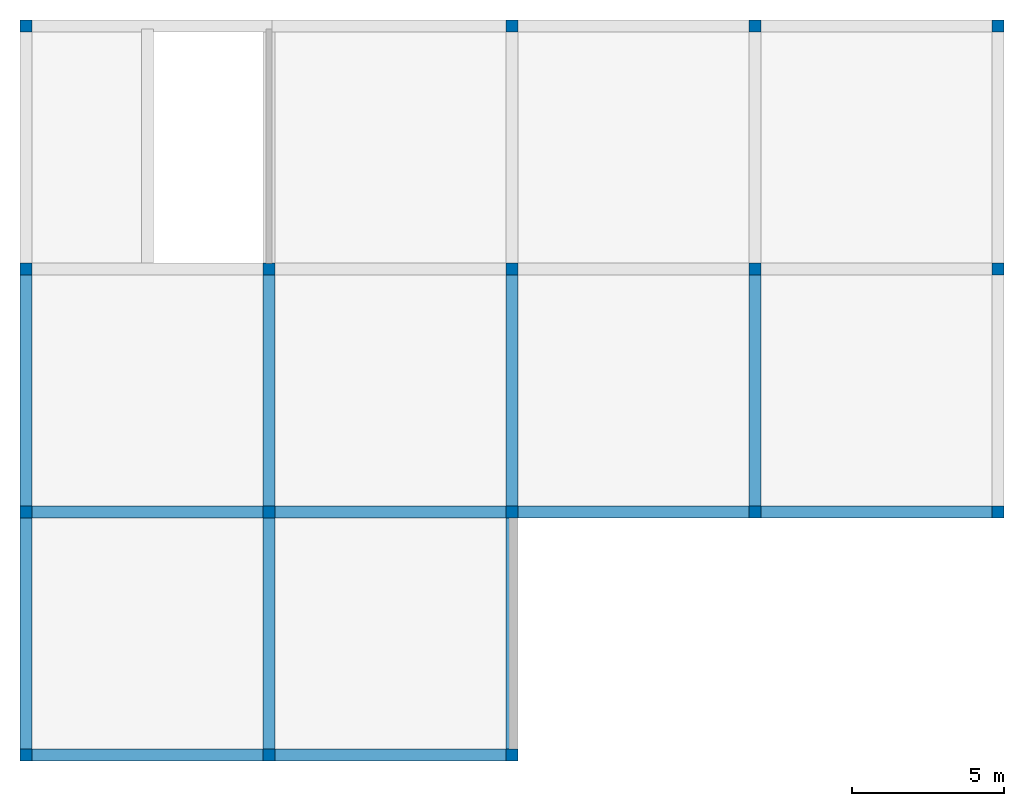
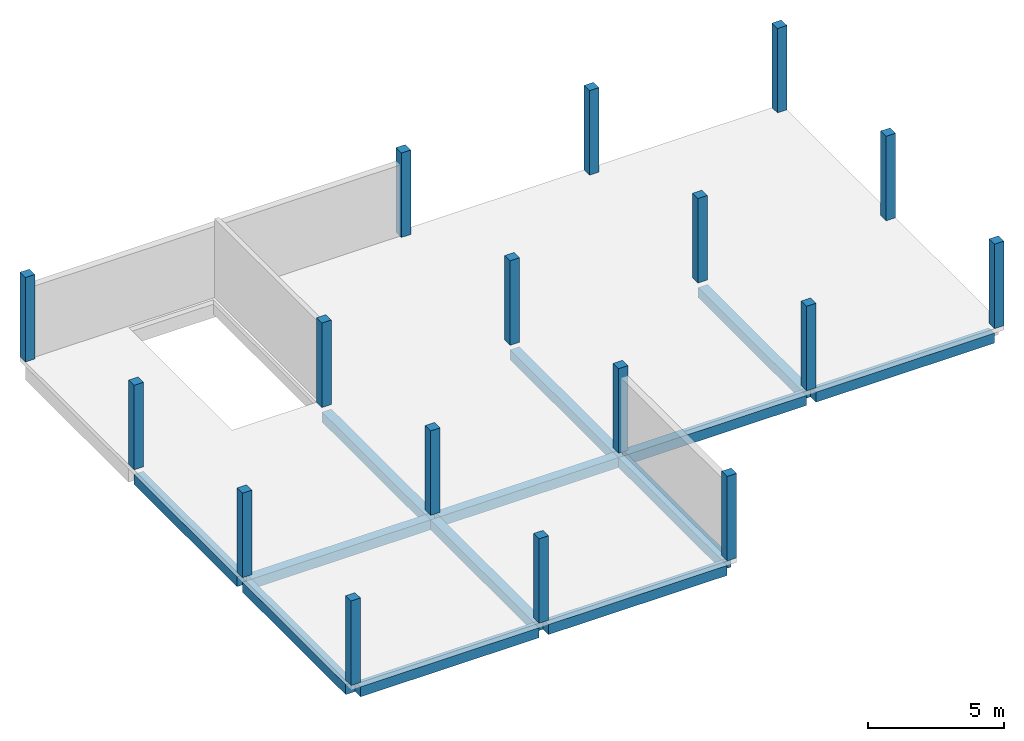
# One storey, part 1 of 3: 17 columns, 13 beams.
"""IFC4X3_ADD2 building model written with IfcOpenShell, lengths in millimetres."""

from ifc_helpers import new_model, entity, si_unit, converted_unit, derived_unit, direction, frame, frame_2d, origin, origin_2d_with_axis, place, context, subcontext, project, spatial, rectangle, extrude, faceted_brep, source, transform, mapped, material, material_profile, profile_set, type_object, type_shapes, element, save


model = new_model("IFC4X3_ADD2")

# Units and contexts
model_context = context("Model", 3, precision=0.01, world=origin(), true_north=direction((6.123233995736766e-17, 1.0)))
plan_context = context("Plan", 3, precision=0.01, world=origin(), true_north=direction((6.123233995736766e-17, 1.0)))
body_context = subcontext(model_context, "Body", "Model", "MODEL_VIEW")
ifc_project = project(units=[si_unit("LENGTHUNIT", "METRE", prefix="MILLI"), converted_unit("PLANEANGLEUNIT", "DEGREE", entity("IfcPlaneAngleMeasure", 0.017453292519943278), si_unit("PLANEANGLEUNIT", "RADIAN"), dimensions=[0, 0, 0, 0, 0, 0, 0]), si_unit("AREAUNIT", "SQUARE_METRE"), si_unit("VOLUMEUNIT", "CUBIC_METRE"), derived_unit("THERMALTRANSMITTANCEUNIT", [(si_unit("MASSUNIT", "GRAM", prefix="KILO"), 1), (si_unit("THERMODYNAMICTEMPERATUREUNIT", "KELVIN"), -1), (si_unit("TIMEUNIT", "SECOND"), -3)]), derived_unit("USERDEFINED", [(si_unit("MASSUNIT", "GRAM", prefix="KILO"), 1), (si_unit("THERMODYNAMICTEMPERATUREUNIT", "KELVIN"), -1), (si_unit("TIMEUNIT", "SECOND"), -2)]), derived_unit("THERMALRESISTANCEUNIT", [(si_unit("MASSUNIT", "GRAM", prefix="KILO"), -1), (si_unit("TIMEUNIT", "SECOND"), 3), (si_unit("THERMODYNAMICTEMPERATUREUNIT", "KELVIN"), 1)]), si_unit("PRESSUREUNIT", "PASCAL"), derived_unit("MASSDENSITYUNIT", [(si_unit("MASSUNIT", "GRAM", prefix="KILO"), 1), (si_unit("LENGTHUNIT", "METRE"), -3)]), derived_unit("MODULUSOFELASTICITYUNIT", [(si_unit("MASSUNIT", "GRAM", prefix="KILO"), 1), (si_unit("TIMEUNIT", "SECOND"), -2), (si_unit("LENGTHUNIT", "METRE"), -1)]), derived_unit("THERMALEXPANSIONCOEFFICIENTUNIT", [(si_unit("THERMODYNAMICTEMPERATUREUNIT", "KELVIN"), -1)]), derived_unit("VAPORPERMEABILITYUNIT", [(si_unit("LENGTHUNIT", "METRE"), -1), (si_unit("TIMEUNIT", "SECOND"), 1)]), derived_unit("USERDEFINED", [(si_unit("MASSUNIT", "GRAM", prefix="KILO"), 1), (si_unit("TIMEUNIT", "SECOND"), -3), (si_unit("LENGTHUNIT", "METRE"), 3), (si_unit("ELECTRICCURRENTUNIT", "AMPERE"), -2)]), derived_unit("SPECIFICHEATCAPACITYUNIT", [(si_unit("THERMODYNAMICTEMPERATUREUNIT", "KELVIN"), -1), (si_unit("TIMEUNIT", "SECOND"), -2), (si_unit("LENGTHUNIT", "METRE"), 2)]), derived_unit("THERMALCONDUCTANCEUNIT", [(si_unit("MASSUNIT", "GRAM", prefix="KILO"), 1), (si_unit("THERMODYNAMICTEMPERATUREUNIT", "KELVIN"), -1), (si_unit("TIMEUNIT", "SECOND"), -3), (si_unit("LENGTHUNIT", "METRE"), 1)])], contexts=[model_context, plan_context])

# Site, building, storey
site_placement = place(None, origin())
site = spatial("IfcSite", under=ifc_project, at=site_placement, Name="Default", CompositionType="ELEMENT")
building_placement = place(site_placement, origin())
building = spatial("IfcBuilding", under=site, at=building_placement, Name="Building Name", CompositionType="ELEMENT")
storey_placement = place(building_placement, frame((0.0, 0.0, 4000.0)))
storey = spatial("IfcBuildingStorey", under=building, at=storey_placement, Name="L2", CompositionType="ELEMENT", Elevation=4000.0000000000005)

# Columns
ifc_material = material(Name="Concrete - Cast-in-Place Concrete", Category="Concrete")
ifc_material_profile_1 = material_profile(ifc_material, rectangle(XDim=400.0, YDim=400.0, at=origin_2d_with_axis()), Name="400 x 400mm")
ifc_profile_set_1 = profile_set([ifc_material_profile_1], Name="400 x 400mm")
column_type_1 = type_object("IfcColumnType", Name="Concrete Square:400 x 400mm", PredefinedType="COLUMN", material=ifc_profile_set_1)
shared_shape_1 = source(origin(), body_context, "Body", "SweptSolid", [
    extrude(rectangle(XDim=400.0, YDim=400.0, at=origin_2d_with_axis()), frame((11032.048763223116, 12096.696870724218, 4000.0), z_axis=(0.0, 0.0, 1.0), x_axis=(-1.0, 0.0, 0.0)), (0.0, 0.0, 1.0), 3800.000000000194),
])
type_shapes(column_type_1, [shared_shape_1])
column_1_placement = place(storey_placement, frame((0.0, 0.0, -4000.0)))
element("IfcColumn", 1, at=column_1_placement, inside=storey, type_object=column_type_1, Name="Concrete Square:400 x 400mm", ObjectType="Concrete Square:400 x 400mm", PredefinedType="COLUMN", context=body_context, shape_type="MappedRepresentation", body=[
    mapped(shared_shape_1, transform((0.0, 0.0, 0.0), scale=1.0)),
])
column_type_2 = type_object("IfcColumnType", Name="Concrete Square:400 x 400mm", PredefinedType="COLUMN", material=ifc_profile_set_1)
shared_shape_2 = source(origin(), body_context, "Body", "SweptSolid", [
    extrude(rectangle(XDim=400.0, YDim=400.0, at=origin_2d_with_axis()), frame((19032.048763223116, 12096.696870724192, 4000.0), z_axis=(0.0, 0.0, 1.0), x_axis=(-1.0, 0.0, 0.0)), (0.0, 0.0, 1.0), 3800.000000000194),
])
type_shapes(column_type_2, [shared_shape_2])
column_2_placement = place(storey_placement, frame((0.0, 0.0, -4000.0)))
element("IfcColumn", 2, at=column_2_placement, inside=storey, type_object=column_type_2, Name="Concrete Square:400 x 400mm", ObjectType="Concrete Square:400 x 400mm", PredefinedType="COLUMN", context=body_context, shape_type="MappedRepresentation", body=[
    mapped(shared_shape_2, transform((0.0, 0.0, 0.0), scale=1.0)),
])
column_type_3 = type_object("IfcColumnType", Name="Concrete Square:400 x 400mm", PredefinedType="COLUMN", material=ifc_profile_set_1)
shared_shape_3 = source(origin(), body_context, "Body", "SweptSolid", [
    extrude(rectangle(XDim=400.0, YDim=400.0, at=origin_2d_with_axis()), frame((-12967.951236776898, 4096.696870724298, 4000.0), z_axis=(0.0, 0.0, 1.0), x_axis=(-1.0, 0.0, 0.0)), (0.0, 0.0, 1.0), 3800.000000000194),
])
type_shapes(column_type_3, [shared_shape_3])
column_3_placement = place(storey_placement, frame((0.0, 0.0, -4000.0)))
element("IfcColumn", 3, at=column_3_placement, inside=storey, type_object=column_type_3, Name="Concrete Square:400 x 400mm", ObjectType="Concrete Square:400 x 400mm", PredefinedType="COLUMN", context=body_context, shape_type="MappedRepresentation", body=[
    mapped(shared_shape_3, transform((0.0, 0.0, 0.0), scale=1.0)),
])
column_type_4 = type_object("IfcColumnType", Name="Concrete Square:400 x 400mm", PredefinedType="COLUMN", material=ifc_profile_set_1)
shared_shape_4 = source(origin(), body_context, "Body", "SweptSolid", [
    extrude(rectangle(XDim=400.0, YDim=400.0, at=origin_2d_with_axis()), frame((3032.0487632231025, 4096.696870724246, 4000.0), z_axis=(0.0, 0.0, 1.0), x_axis=(-1.0, 0.0, 0.0)), (0.0, 0.0, 1.0), 3800.000000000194),
])
type_shapes(column_type_4, [shared_shape_4])
column_4_placement = place(storey_placement, frame((0.0, 0.0, -4000.0)))
element("IfcColumn", 4, at=column_4_placement, inside=storey, type_object=column_type_4, Name="Concrete Square:400 x 400mm", ObjectType="Concrete Square:400 x 400mm", PredefinedType="COLUMN", context=body_context, shape_type="MappedRepresentation", body=[
    mapped(shared_shape_4, transform((0.0, 0.0, 0.0), scale=1.0)),
])
column_type_5 = type_object("IfcColumnType", Name="Concrete Square:400 x 400mm", PredefinedType="COLUMN", material=ifc_profile_set_1)
shared_shape_5 = source(origin(), body_context, "Body", "SweptSolid", [
    extrude(rectangle(XDim=400.0, YDim=400.0, at=origin_2d_with_axis()), frame((11032.048763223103, 4096.6968707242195, 4000.0), z_axis=(0.0, 0.0, 1.0), x_axis=(-1.0, 0.0, 0.0)), (0.0, 0.0, 1.0), 3800.000000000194),
])
type_shapes(column_type_5, [shared_shape_5])
column_5_placement = place(storey_placement, frame((0.0, 0.0, -4000.0)))
element("IfcColumn", 5, at=column_5_placement, inside=storey, type_object=column_type_5, Name="Concrete Square:400 x 400mm", ObjectType="Concrete Square:400 x 400mm", PredefinedType="COLUMN", context=body_context, shape_type="MappedRepresentation", body=[
    mapped(shared_shape_5, transform((0.0, 0.0, 0.0), scale=1.0)),
])
column_type_6 = type_object("IfcColumnType", Name="Concrete Square:400 x 400mm", PredefinedType="COLUMN", material=ifc_profile_set_1)
shared_shape_6 = source(origin(), body_context, "Body", "SweptSolid", [
    extrude(rectangle(XDim=400.0, YDim=400.0, at=origin_2d_with_axis()), frame((19032.048763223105, 4096.696870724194, 4000.0), z_axis=(0.0, 0.0, 1.0), x_axis=(-1.0, 0.0, 0.0)), (0.0, 0.0, 1.0), 3800.000000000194),
])
type_shapes(column_type_6, [shared_shape_6])
column_6_placement = place(storey_placement, frame((0.0, 0.0, -4000.0)))
element("IfcColumn", 6, at=column_6_placement, inside=storey, type_object=column_type_6, Name="Concrete Square:400 x 400mm", ObjectType="Concrete Square:400 x 400mm", PredefinedType="COLUMN", context=body_context, shape_type="MappedRepresentation", body=[
    mapped(shared_shape_6, transform((0.0, 0.0, 0.0), scale=1.0)),
])
column_type_7 = type_object("IfcColumnType", Name="Concrete Square:400 x 400mm", PredefinedType="COLUMN", material=ifc_profile_set_1)
shared_shape_7 = source(origin(), body_context, "Body", "SweptSolid", [
    extrude(rectangle(XDim=400.0, YDim=400.0, at=origin_2d_with_axis()), frame((-12967.951236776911, -3903.3031292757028, 4000.0), z_axis=(0.0, 0.0, 1.0), x_axis=(-1.0, 0.0, 0.0)), (0.0, 0.0, 1.0), 3800.000000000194),
])
type_shapes(column_type_7, [shared_shape_7])
column_7_placement = place(storey_placement, frame((0.0, 0.0, -4000.0)))
element("IfcColumn", 7, at=column_7_placement, inside=storey, type_object=column_type_7, Name="Concrete Square:400 x 400mm", ObjectType="Concrete Square:400 x 400mm", PredefinedType="COLUMN", context=body_context, shape_type="MappedRepresentation", body=[
    mapped(shared_shape_7, transform((0.0, 0.0, 0.0), scale=1.0)),
])
column_type_8 = type_object("IfcColumnType", Name="Concrete Square:400 x 400mm", PredefinedType="COLUMN", material=ifc_profile_set_1)
shared_shape_8 = source(origin(), body_context, "Body", "SweptSolid", [
    extrude(rectangle(XDim=400.0, YDim=400.0, at=origin_2d_with_axis()), frame((-4967.951236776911, -3903.3031292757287, 4000.0), z_axis=(0.0, 0.0, 1.0), x_axis=(-1.0, 0.0, 0.0)), (0.0, 0.0, 1.0), 3800.000000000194),
])
type_shapes(column_type_8, [shared_shape_8])
column_8_placement = place(storey_placement, frame((0.0, 0.0, -4000.0)))
element("IfcColumn", 8, at=column_8_placement, inside=storey, type_object=column_type_8, Name="Concrete Square:400 x 400mm", ObjectType="Concrete Square:400 x 400mm", PredefinedType="COLUMN", context=body_context, shape_type="MappedRepresentation", body=[
    mapped(shared_shape_8, transform((0.0, 0.0, 0.0), scale=1.0)),
])
column_type_9 = type_object("IfcColumnType", Name="Concrete Square:400 x 400mm", PredefinedType="COLUMN", material=ifc_profile_set_1)
shared_shape_9 = source(origin(), body_context, "Body", "SweptSolid", [
    extrude(rectangle(XDim=400.0, YDim=400.0, at=origin_2d_with_axis()), frame((11032.04876322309, -3903.303129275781, 4000.0), z_axis=(0.0, 0.0, 1.0), x_axis=(-1.0, 0.0, 0.0)), (0.0, 0.0, 1.0), 3800.000000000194),
])
type_shapes(column_type_9, [shared_shape_9])
column_9_placement = place(storey_placement, frame((0.0, 0.0, -4000.0)))
element("IfcColumn", 9, at=column_9_placement, inside=storey, type_object=column_type_9, Name="Concrete Square:400 x 400mm", ObjectType="Concrete Square:400 x 400mm", PredefinedType="COLUMN", context=body_context, shape_type="MappedRepresentation", body=[
    mapped(shared_shape_9, transform((0.0, 0.0, 0.0), scale=1.0)),
])
column_type_10 = type_object("IfcColumnType", Name="Concrete Square:400 x 400mm", PredefinedType="COLUMN", material=ifc_profile_set_1)
shared_shape_10 = source(origin(), body_context, "Body", "SweptSolid", [
    extrude(rectangle(XDim=400.0, YDim=400.0, at=origin_2d_with_axis()), frame((19032.04876322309, -3903.303129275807, 4000.0), z_axis=(0.0, 0.0, 1.0), x_axis=(-1.0, 0.0, 0.0)), (0.0, 0.0, 1.0), 3800.000000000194),
])
type_shapes(column_type_10, [shared_shape_10])
column_10_placement = place(storey_placement, frame((0.0, 0.0, -4000.0)))
element("IfcColumn", 10, at=column_10_placement, inside=storey, type_object=column_type_10, Name="Concrete Square:400 x 400mm", ObjectType="Concrete Square:400 x 400mm", PredefinedType="COLUMN", context=body_context, shape_type="MappedRepresentation", body=[
    mapped(shared_shape_10, transform((0.0, 0.0, 0.0), scale=1.0)),
])
column_type_11 = type_object("IfcColumnType", Name="Concrete Square:400 x 400mm", PredefinedType="COLUMN", material=ifc_profile_set_1)
shared_shape_11 = source(origin(), body_context, "Body", "SweptSolid", [
    extrude(rectangle(XDim=400.0, YDim=400.0, at=origin_2d_with_axis()), frame((-12967.951236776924, -11903.303129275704, 4000.0), z_axis=(0.0, 0.0, 1.0), x_axis=(-1.0, 0.0, 0.0)), (0.0, 0.0, 1.0), 3800.000000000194),
])
type_shapes(column_type_11, [shared_shape_11])
column_11_placement = place(storey_placement, frame((0.0, 0.0, -4000.0)))
element("IfcColumn", 11, at=column_11_placement, inside=storey, type_object=column_type_11, Name="Concrete Square:400 x 400mm", ObjectType="Concrete Square:400 x 400mm", PredefinedType="COLUMN", context=body_context, shape_type="MappedRepresentation", body=[
    mapped(shared_shape_11, transform((0.0, 0.0, 0.0), scale=1.0)),
])
column_type_12 = type_object("IfcColumnType", Name="Concrete Square:400 x 400mm", PredefinedType="COLUMN", material=ifc_profile_set_1)
shared_shape_12 = source(origin(), body_context, "Body", "SweptSolid", [
    extrude(rectangle(XDim=400.0, YDim=400.0, at=origin_2d_with_axis()), frame((-4967.951236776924, -11903.30312927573, 4000.0), z_axis=(0.0, 0.0, 1.0), x_axis=(-1.0, 0.0, 0.0)), (0.0, 0.0, 1.0), 3800.000000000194),
])
type_shapes(column_type_12, [shared_shape_12])
column_12_placement = place(storey_placement, frame((0.0, 0.0, -4000.0)))
element("IfcColumn", 12, at=column_12_placement, inside=storey, type_object=column_type_12, Name="Concrete Square:400 x 400mm", ObjectType="Concrete Square:400 x 400mm", PredefinedType="COLUMN", context=body_context, shape_type="MappedRepresentation", body=[
    mapped(shared_shape_12, transform((0.0, 0.0, 0.0), scale=1.0)),
])
column_type_13 = type_object("IfcColumnType", Name="Concrete Square:400 x 400mm", PredefinedType="COLUMN", material=ifc_profile_set_1)
shared_shape_13 = source(origin(), body_context, "Body", "SweptSolid", [
    extrude(rectangle(XDim=400.0, YDim=400.0, at=frame_2d((-39.99999999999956, -19.999999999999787), x_axis=(1.0, 0.0))), frame((2992.048763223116, 12076.696870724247, 4000.0), z_axis=(0.0, 0.0, 1.0), x_axis=(-1.0, 0.0, 0.0)), (0.0, 0.0, 1.0), 3800.000000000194),
])
type_shapes(column_type_13, [shared_shape_13])
column_13_placement = place(storey_placement, frame((0.0, 0.0, -4000.0)))
element("IfcColumn", 13, at=column_13_placement, inside=storey, type_object=column_type_13, Name="Concrete Square:400 x 400mm", ObjectType="Concrete Square:400 x 400mm", PredefinedType="COLUMN", context=body_context, shape_type="MappedRepresentation", body=[
    mapped(shared_shape_13, transform((0.0, 0.0, 0.0), scale=1.0)),
])
column_type_14 = type_object("IfcColumnType", Name="Concrete Square:400 x 400mm", PredefinedType="COLUMN", material=ifc_profile_set_1)
shared_shape_14 = source(origin(), body_context, "Body", "SweptSolid", [
    extrude(rectangle(XDim=400.0, YDim=400.0, at=frame_2d((39.99999999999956, -19.999999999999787), x_axis=(1.0, 0.0))), frame((-12927.951236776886, 12076.696870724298, 4000.0), z_axis=(0.0, 0.0, 1.0), x_axis=(-1.0, 0.0, 0.0)), (0.0, 0.0, 1.0), 3800.000000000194),
])
type_shapes(column_type_14, [shared_shape_14])
column_14_placement = place(storey_placement, frame((0.0, 0.0, -4000.0)))
element("IfcColumn", 14, at=column_14_placement, inside=storey, type_object=column_type_14, Name="Concrete Square:400 x 400mm", ObjectType="Concrete Square:400 x 400mm", PredefinedType="COLUMN", context=body_context, shape_type="MappedRepresentation", body=[
    mapped(shared_shape_14, transform((0.0, 0.0, 0.0), scale=1.0)),
])
column_type_15 = type_object("IfcColumnType", Name="Concrete Square:400 x 400mm", PredefinedType="COLUMN", material=ifc_profile_set_1)
shared_shape_15 = source(origin(), body_context, "Body", "SweptSolid", [
    extrude(rectangle(XDim=400.0, YDim=400.0, at=frame_2d((-19.999999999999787, 39.9999999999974), x_axis=(1.0, 0.0))), frame((3012.0487632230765, -11863.303129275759, 4000.0), z_axis=(0.0, 0.0, 1.0), x_axis=(-1.0, 0.0, 0.0)), (0.0, 0.0, 1.0), 3800.000000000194),
])
type_shapes(column_type_15, [shared_shape_15])
column_15_placement = place(storey_placement, frame((0.0, 0.0, -4000.0)))
element("IfcColumn", 15, at=column_15_placement, inside=storey, type_object=column_type_15, Name="Concrete Square:400 x 400mm", ObjectType="Concrete Square:400 x 400mm", PredefinedType="COLUMN", context=body_context, shape_type="MappedRepresentation", body=[
    mapped(shared_shape_15, transform((0.0, 0.0, 0.0), scale=1.0)),
])
column_type_16 = type_object("IfcColumnType", Name="Concrete Square:400 x 400mm", PredefinedType="COLUMN", material=ifc_profile_set_1)
shared_shape_16 = source(origin(), body_context, "Body", "SweptSolid", [
    extrude(rectangle(XDim=400.0, YDim=400.0, at=frame_2d((-20.000000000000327, -40.00000000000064), x_axis=(1.0, 0.0))), frame((3012.0487632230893, -3943.3031292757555, 4000.0), z_axis=(0.0, 0.0, 1.0), x_axis=(-1.0, 0.0, 0.0)), (0.0, 0.0, 1.0), 3800.000000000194),
])
type_shapes(column_type_16, [shared_shape_16])
column_16_placement = place(storey_placement, frame((0.0, 0.0, -4000.0)))
element("IfcColumn", 16, at=column_16_placement, inside=storey, type_object=column_type_16, Name="Concrete Square:400 x 400mm", ObjectType="Concrete Square:400 x 400mm", PredefinedType="COLUMN", context=body_context, shape_type="MappedRepresentation", body=[
    mapped(shared_shape_16, transform((0.0, 0.0, 0.0), scale=1.0)),
])
column_type_17 = type_object("IfcColumnType", Name="Concrete Square:400 x 400mm", PredefinedType="COLUMN", material=ifc_profile_set_1)
shared_shape_17 = source(origin(), body_context, "Body", "Brep", [
    faceted_brep([(-4767.951236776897, 4296.696870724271, 4000.0), (-4767.951236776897, 3896.696870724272, 4000.0), (-5167.951236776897, 3896.696870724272, 4000.0), (-5167.951236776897, 4296.696870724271, 4000.0), (-5067.951236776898, 4296.696870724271, 4000.0), (-5067.951236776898, 4286.6968707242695, 4000.0), (-4867.9512367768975, 4286.6968707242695, 4000.0), (-4867.951236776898, 4296.696870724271, 4000.0), (-4767.951236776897, 4296.696870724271, 7200.0), (-4767.951236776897, 4296.696870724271, 7350.0), (-4767.951236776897, 4296.696870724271, 7800.0), (-4767.951236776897, 3896.696870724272, 7800.0), (-4767.951236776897, 3896.696870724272, 7350.0), (-4767.951236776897, 3896.696870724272, 7200.0), (-5167.951236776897, 3896.696870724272, 7800.0), (-5167.951236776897, 3896.696870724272, 7350.0), (-5167.951236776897, 3896.696870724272, 7200.0), (-5167.951236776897, 4296.696870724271, 7800.0), (-5167.951236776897, 4296.696870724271, 7350.0), (-5167.951236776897, 4296.696870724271, 7200.0), (-4867.9512367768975, 4296.696870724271, 7350.0), (-4867.9512367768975, 4296.696870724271, 7550.0), (-5067.951236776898, 4296.696870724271, 7550.0), (-5067.951236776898, 4296.696870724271, 7350.0), (-5067.951236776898, 4286.6968707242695, 7550.0), (-4867.9512367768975, 4286.6968707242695, 7550.0)], [[[0, 1, 2, 3, 4, 5, 6, 7]], [[1, 0, 8, 9, 10, 11, 12, 13]], [[2, 1, 13, 12, 11, 14, 15, 16]], [[3, 2, 16, 15, 14, 17, 18, 19]], [[4, 3, 19, 18, 17, 10, 9, 8, 0, 7, 20, 21, 22, 23]], [[24, 5, 4, 23, 22]], [[6, 25, 21, 20, 7]], [[5, 24, 25, 6]], [[25, 24, 22, 21]], [[11, 10, 17, 14]]]),
])
type_shapes(column_type_17, [shared_shape_17])
column_17_placement = place(storey_placement, frame((0.0, 0.0, -4000.0)))
element("IfcColumn", 17, at=column_17_placement, inside=storey, type_object=column_type_17, Name="Concrete Square:400 x 400mm", ObjectType="Concrete Square:400 x 400mm", PredefinedType="COLUMN", context=body_context, shape_type="MappedRepresentation", body=[
    mapped(shared_shape_17, transform((0.0, 0.0, 0.0), scale=1.0)),
])

# Beams
ifc_material_profile_2 = material_profile(ifc_material, rectangle(XDim=450.0, YDim=400.00000000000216, at=frame_2d((-1.0942358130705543e-12, 2.7000623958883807e-13), x_axis=(0.0, 1.0))), Name="400 x 450mm")
ifc_profile_set_2 = profile_set([ifc_material_profile_2], Name="400 x 450mm")
beam_type_1 = type_object("IfcBeamType", Name="Concrete - Rectangular Beam:400 x 450mm", PredefinedType="BEAM", material=ifc_profile_set_2)
shared_shape_18 = source(origin(), body_context, "Body", "SweptSolid", [
    extrude(rectangle(XDim=450.0, YDim=400.00000000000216, at=frame_2d((-1.0942358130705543e-12, 2.7000623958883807e-13), x_axis=(0.0, 1.0))), frame((-12967.951236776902, 3896.696870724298, 3575.0), z_axis=(0.0, -1.0, 0.0), x_axis=(-1.0, 0.0, 0.0)), (0.0, 0.0, 1.0), 7600.000000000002),
])
type_shapes(beam_type_1, [shared_shape_18])
beam_1_placement = place(storey_placement, frame((0.0, 0.0, -4000.0)))
element("IfcBeam", 18, at=beam_1_placement, inside=storey, type_object=beam_type_1, Name="Concrete - Rectangular Beam:400 x 450mm", ObjectType="Concrete - Rectangular Beam:400 x 450mm", PredefinedType="BEAM", context=body_context, shape_type="MappedRepresentation", body=[
    mapped(shared_shape_18, transform((0.0, 0.0, 0.0), scale=1.0)),
])
beam_type_2 = type_object("IfcBeamType", Name="Concrete - Rectangular Beam:400 x 450mm", PredefinedType="BEAM", material=ifc_profile_set_2)
shared_shape_19 = source(origin(), body_context, "Body", "SweptSolid", [
    extrude(rectangle(XDim=450.0, YDim=400.00000000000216, at=frame_2d((-1.0942358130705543e-12, 2.7000623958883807e-13), x_axis=(0.0, 1.0))), frame((-12967.951236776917, -4103.303129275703, 3575.0), z_axis=(0.0, -1.0, 0.0), x_axis=(-1.0, 0.0, 0.0)), (0.0, 0.0, 1.0), 7600.000000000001),
])
type_shapes(beam_type_2, [shared_shape_19])
beam_2_placement = place(storey_placement, frame((0.0, 0.0, -4000.0)))
element("IfcBeam", 19, at=beam_2_placement, inside=storey, type_object=beam_type_2, Name="Concrete - Rectangular Beam:400 x 450mm", ObjectType="Concrete - Rectangular Beam:400 x 450mm", PredefinedType="BEAM", context=body_context, shape_type="MappedRepresentation", body=[
    mapped(shared_shape_19, transform((0.0, 0.0, 0.0), scale=1.0)),
])
beam_type_3 = type_object("IfcBeamType", Name="Concrete - Rectangular Beam:400 x 450mm", PredefinedType="BEAM", material=ifc_profile_set_2)
shared_shape_20 = source(origin(), body_context, "Body", "SweptSolid", [
    extrude(rectangle(XDim=450.0, YDim=400.0000000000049, at=frame_2d((2.7000623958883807e-13, 2.7000623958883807e-13), x_axis=(0.0, 1.0))), frame((-4967.951236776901, 3896.6968707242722, 3575.0), z_axis=(0.0, -1.0, 0.0), x_axis=(-1.0, 0.0, 0.0)), (0.0, 0.0, 1.0), 7600.000000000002),
])
type_shapes(beam_type_3, [shared_shape_20])
beam_3_placement = place(storey_placement, frame((0.0, 0.0, -4000.0)))
element("IfcBeam", 20, at=beam_3_placement, inside=storey, type_object=beam_type_3, Name="Concrete - Rectangular Beam:400 x 450mm", ObjectType="Concrete - Rectangular Beam:400 x 450mm", PredefinedType="BEAM", context=body_context, shape_type="MappedRepresentation", body=[
    mapped(shared_shape_20, transform((0.0, 0.0, 0.0), scale=1.0)),
])
beam_type_4 = type_object("IfcBeamType", Name="Concrete - Rectangular Beam:400 x 450mm", PredefinedType="BEAM", material=ifc_profile_set_2)
shared_shape_21 = source(origin(), body_context, "Body", "SweptSolid", [
    extrude(rectangle(XDim=450.0, YDim=400.0000000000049, at=frame_2d((2.7000623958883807e-13, 2.7000623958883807e-13), x_axis=(0.0, 1.0))), frame((-4967.951236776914, -4103.303129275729, 3575.0), z_axis=(0.0, -1.0, 0.0), x_axis=(-1.0, 0.0, 0.0)), (0.0, 0.0, 1.0), 7600.000000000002),
])
type_shapes(beam_type_4, [shared_shape_21])
beam_4_placement = place(storey_placement, frame((0.0, 0.0, -4000.0)))
element("IfcBeam", 21, at=beam_4_placement, inside=storey, type_object=beam_type_4, Name="Concrete - Rectangular Beam:400 x 450mm", ObjectType="Concrete - Rectangular Beam:400 x 450mm", PredefinedType="BEAM", context=body_context, shape_type="MappedRepresentation", body=[
    mapped(shared_shape_21, transform((0.0, 0.0, 0.0), scale=1.0)),
])
beam_type_5 = type_object("IfcBeamType", Name="Concrete - Rectangular Beam:400 x 450mm", PredefinedType="BEAM", material=ifc_profile_set_2)
shared_shape_22 = source(origin(), body_context, "Body", "SweptSolid", [
    extrude(rectangle(XDim=450.0, YDim=400.00000000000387, at=frame_2d((-5.400124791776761e-13, 2.7000623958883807e-13), x_axis=(0.0, 1.0))), frame((3032.0487632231, 3896.6968707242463, 3575.0), z_axis=(0.0, -1.0, 0.0), x_axis=(-1.0, 0.0, 0.0)), (0.0, 0.0, 1.0), 7600.000000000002),
])
type_shapes(beam_type_5, [shared_shape_22])
beam_5_placement = place(storey_placement, frame((0.0, 0.0, -4000.0)))
element("IfcBeam", 22, at=beam_5_placement, inside=storey, type_object=beam_type_5, Name="Concrete - Rectangular Beam:400 x 450mm", ObjectType="Concrete - Rectangular Beam:400 x 450mm", PredefinedType="BEAM", context=body_context, shape_type="MappedRepresentation", body=[
    mapped(shared_shape_22, transform((0.0, 0.0, 0.0), scale=1.0)),
])
beam_type_6 = type_object("IfcBeamType", Name="Concrete - Rectangular Beam:400 x 450mm", PredefinedType="BEAM", material=ifc_profile_set_2)
shared_shape_23 = source(origin(), body_context, "Body", "SweptSolid", [
    extrude(rectangle(XDim=450.0, YDim=400.00000000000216, at=frame_2d((-1.0942358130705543e-12, 2.7000623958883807e-13), x_axis=(0.0, 1.0))), frame((11032.048763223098, 3896.6968707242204, 3575.0), z_axis=(0.0, -1.0, 0.0), x_axis=(-1.0, 0.0, 0.0)), (0.0, 0.0, 1.0), 7600.000000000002),
])
type_shapes(beam_type_6, [shared_shape_23])
beam_6_placement = place(storey_placement, frame((0.0, 0.0, -4000.0)))
element("IfcBeam", 23, at=beam_6_placement, inside=storey, type_object=beam_type_6, Name="Concrete - Rectangular Beam:400 x 450mm", ObjectType="Concrete - Rectangular Beam:400 x 450mm", PredefinedType="BEAM", context=body_context, shape_type="MappedRepresentation", body=[
    mapped(shared_shape_23, transform((0.0, 0.0, 0.0), scale=1.0)),
])
beam_type_7 = type_object("IfcBeamType", Name="Concrete - Rectangular Beam:400 x 450mm", PredefinedType="BEAM", material=ifc_profile_set_2)
shared_shape_24 = source(origin(), body_context, "Body", "SweptSolid", [
    extrude(rectangle(XDim=450.0, YDim=400.0000000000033, at=frame_2d((2.7000623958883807e-13, 0.0), x_axis=(1.0, 0.0))), frame((3232.048763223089, -3903.303129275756, 3575.0), z_axis=(1.0, 0.0, 0.0), x_axis=(0.0, 0.0, -1.0)), (0.0, 0.0, 1.0), 7600.000000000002),
])
type_shapes(beam_type_7, [shared_shape_24])
beam_7_placement = place(storey_placement, frame((0.0, 0.0, -4000.0)))
element("IfcBeam", 24, at=beam_7_placement, inside=storey, type_object=beam_type_7, Name="Concrete - Rectangular Beam:400 x 450mm", ObjectType="Concrete - Rectangular Beam:400 x 450mm", PredefinedType="BEAM", context=body_context, shape_type="MappedRepresentation", body=[
    mapped(shared_shape_24, transform((0.0, 0.0, 0.0), scale=1.0)),
])
beam_type_8 = type_object("IfcBeamType", Name="Concrete - Rectangular Beam:400 x 450mm", PredefinedType="BEAM", material=ifc_profile_set_2)
shared_shape_25 = source(origin(), body_context, "Body", "SweptSolid", [
    extrude(rectangle(XDim=450.0, YDim=400.0000000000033, at=frame_2d((2.7000623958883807e-13, 0.0), x_axis=(1.0, 0.0))), frame((11232.048763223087, -3903.303129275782, 3575.0), z_axis=(1.0, 0.0, 0.0), x_axis=(0.0, 0.0, -1.0)), (0.0, 0.0, 1.0), 7600.000000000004),
])
type_shapes(beam_type_8, [shared_shape_25])
beam_8_placement = place(storey_placement, frame((0.0, 0.0, -4000.0)))
element("IfcBeam", 25, at=beam_8_placement, inside=storey, type_object=beam_type_8, Name="Concrete - Rectangular Beam:400 x 450mm", ObjectType="Concrete - Rectangular Beam:400 x 450mm", PredefinedType="BEAM", context=body_context, shape_type="MappedRepresentation", body=[
    mapped(shared_shape_25, transform((0.0, 0.0, 0.0), scale=1.0)),
])
beam_type_9 = type_object("IfcBeamType", Name="Concrete - Rectangular Beam:400 x 450mm", PredefinedType="BEAM", material=ifc_profile_set_2)
shared_shape_26 = source(origin(), body_context, "Body", "SweptSolid", [
    extrude(rectangle(XDim=450.0, YDim=400.0000000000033, at=frame_2d((2.7000623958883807e-13, 0.0), x_axis=(1.0, 0.0))), frame((-12767.951236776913, -3903.3031292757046, 3575.0), z_axis=(1.0, 0.0, 0.0), x_axis=(0.0, 0.0, -1.0)), (0.0, 0.0, 1.0), 7600.000000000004),
])
type_shapes(beam_type_9, [shared_shape_26])
beam_9_placement = place(storey_placement, frame((0.0, 0.0, -4000.0)))
element("IfcBeam", 26, at=beam_9_placement, inside=storey, type_object=beam_type_9, Name="Concrete - Rectangular Beam:400 x 450mm", ObjectType="Concrete - Rectangular Beam:400 x 450mm", PredefinedType="BEAM", context=body_context, shape_type="MappedRepresentation", body=[
    mapped(shared_shape_26, transform((0.0, 0.0, 0.0), scale=1.0)),
])
beam_type_10 = type_object("IfcBeamType", Name="Concrete - Rectangular Beam:400 x 450mm", PredefinedType="BEAM", material=ifc_profile_set_2)
shared_shape_27 = source(origin(), body_context, "Body", "SweptSolid", [
    extrude(rectangle(XDim=450.0, YDim=400.00000000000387, at=frame_2d((2.7000623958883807e-13, -2.7000623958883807e-13), x_axis=(1.0, 0.0))), frame((-4767.951236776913, -3903.3031292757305, 3575.0), z_axis=(1.0, 0.0, 0.0), x_axis=(0.0, 0.0, -1.0)), (0.0, 0.0, 1.0), 7600.000000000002),
])
type_shapes(beam_type_10, [shared_shape_27])
beam_10_placement = place(storey_placement, frame((0.0, 0.0, -4000.0)))
element("IfcBeam", 27, at=beam_10_placement, inside=storey, type_object=beam_type_10, Name="Concrete - Rectangular Beam:400 x 450mm", ObjectType="Concrete - Rectangular Beam:400 x 450mm", PredefinedType="BEAM", context=body_context, shape_type="MappedRepresentation", body=[
    mapped(shared_shape_27, transform((0.0, 0.0, 0.0), scale=1.0)),
])
beam_type_11 = type_object("IfcBeamType", Name="Concrete - Rectangular Beam:400 x 450mm", PredefinedType="BEAM", material=ifc_profile_set_2)
shared_shape_28 = source(origin(), body_context, "Body", "SweptSolid", [
    extrude(rectangle(XDim=450.0, YDim=400.0000000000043, at=frame_2d((2.7000623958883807e-13, -1.0800249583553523e-12), x_axis=(1.0, 0.0))), frame((-12767.951236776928, -11903.303129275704, 3575.0), z_axis=(1.0, 0.0, 0.0), x_axis=(0.0, 0.0, -1.0)), (0.0, 0.0, 1.0), 7600.000000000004),
])
type_shapes(beam_type_11, [shared_shape_28])
beam_11_placement = place(storey_placement, frame((0.0, 0.0, -4000.0)))
element("IfcBeam", 28, at=beam_11_placement, inside=storey, type_object=beam_type_11, Name="Concrete - Rectangular Beam:400 x 450mm", ObjectType="Concrete - Rectangular Beam:400 x 450mm", PredefinedType="BEAM", context=body_context, shape_type="MappedRepresentation", body=[
    mapped(shared_shape_28, transform((0.0, 0.0, 0.0), scale=1.0)),
])
beam_type_12 = type_object("IfcBeamType", Name="Concrete - Rectangular Beam:400 x 450mm", PredefinedType="BEAM", material=ifc_profile_set_2)
shared_shape_29 = source(origin(), body_context, "Body", "SweptSolid", [
    extrude(rectangle(XDim=450.0, YDim=400.0000000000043, at=frame_2d((2.7000623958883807e-13, -1.0800249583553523e-12), x_axis=(1.0, 0.0))), frame((-4767.951236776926, -11903.30312927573, 3575.0), z_axis=(1.0, 0.0, 0.0), x_axis=(0.0, 0.0, -1.0)), (0.0, 0.0, 1.0), 7600.000000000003),
])
type_shapes(beam_type_12, [shared_shape_29])
beam_12_placement = place(storey_placement, frame((0.0, 0.0, -4000.0)))
element("IfcBeam", 29, at=beam_12_placement, inside=storey, type_object=beam_type_12, Name="Concrete - Rectangular Beam:400 x 450mm", ObjectType="Concrete - Rectangular Beam:400 x 450mm", PredefinedType="BEAM", context=body_context, shape_type="MappedRepresentation", body=[
    mapped(shared_shape_29, transform((0.0, 0.0, 0.0), scale=1.0)),
])
beam_type_13 = type_object("IfcBeamType", Name="Concrete - Rectangular Beam:400 x 450mm", PredefinedType="BEAM", material=ifc_profile_set_2)
shared_shape_30 = source(origin(), body_context, "Body", "SweptSolid", [
    extrude(rectangle(XDim=450.0, YDim=400.00000000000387, at=frame_2d((-5.400124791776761e-13, 2.7000623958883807e-13), x_axis=(0.0, 1.0))), frame((3032.048763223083, -4103.303129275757, 3575.0), z_axis=(0.0, -1.0, 0.0), x_axis=(-1.0, 0.0, 0.0)), (0.0, 0.0, 1.0), 7599.999999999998),
])
type_shapes(beam_type_13, [shared_shape_30])
beam_13_placement = place(storey_placement, frame((0.0, 0.0, -4000.0)))
element("IfcBeam", 30, at=beam_13_placement, inside=storey, type_object=beam_type_13, Name="Concrete - Rectangular Beam:400 x 450mm", ObjectType="Concrete - Rectangular Beam:400 x 450mm", PredefinedType="BEAM", context=body_context, shape_type="MappedRepresentation", body=[
    mapped(shared_shape_30, transform((0.0, 0.0, 0.0), scale=1.0)),
])

save(model, "model.ifc")
